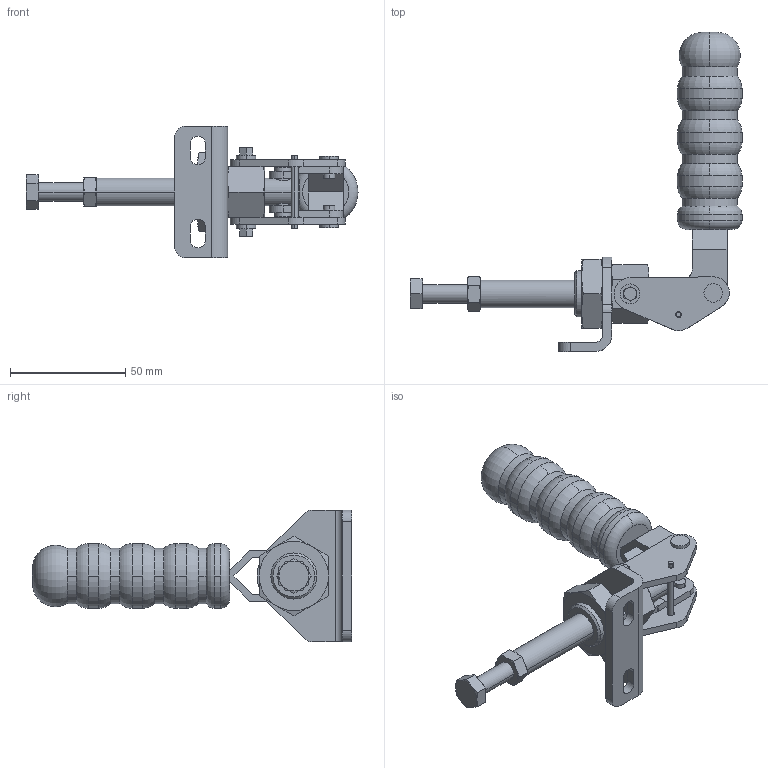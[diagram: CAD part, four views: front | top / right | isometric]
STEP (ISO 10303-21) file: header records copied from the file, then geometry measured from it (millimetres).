
FILE_DESCRIPTION( ( '' ), '1' );
FILE_NAME( '//partserver002.servicenet/client_exchange/iodir/jobs/output/wkb5782739_no4/STEP/p200_2_03.stp', '2006-11-29T10:45:14', ( '' ), ( '' ), ' ', ' ', ' ' );
FILE_SCHEMA( ( 'CONFIG_CONTROL_DESIGN' ) );
Length unit declared in the file: millimetre
Products named in the file (6): 1; 2; 3; 4; 5; 6
Bounding box: 144 x 138.4 x 57.2 mm (x, y, z)
Volume: 89556.9 mm3; surface area: 33572.4 mm2
Topology: 6 solids, 7 shells, 314 faces, 753 edges, 473 vertices
Faces by surface type: plane 109, cylinder 99, cone 88, torus 18
Entity records: 9455 total; most frequent: CARTESIAN_POINT 1944, DIRECTION 1601, ORIENTED_EDGE 1502, EDGE_CURVE 751, AXIS2_PLACEMENT_3D 658, VERTEX_POINT 473, EDGE_LOOP 356, CIRCLE 332
